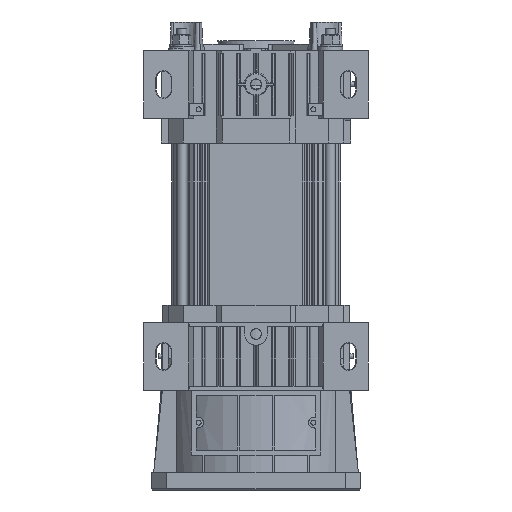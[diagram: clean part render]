
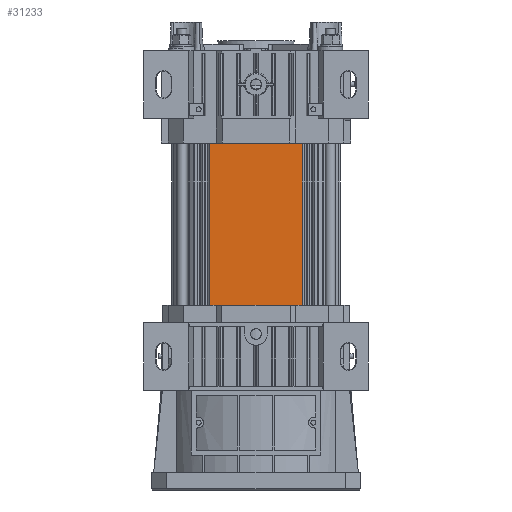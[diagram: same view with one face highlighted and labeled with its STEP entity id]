
A CAD part, front view. The second image highlights one B-rep face of the part: STEP entity #31233.
In plain terms, the highlighted planar face has unit normal (0, -1, 0).
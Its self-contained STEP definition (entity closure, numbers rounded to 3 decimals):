
#3447=LINE('',#53682,#6359);
#3683=LINE('',#54425,#6595);
#3684=LINE('',#54428,#6596);
#3685=LINE('',#54429,#6597);
#6359=VECTOR('',#42532,10.);
#6595=VECTOR('',#43286,10.);
#6596=VECTOR('',#43291,10.);
#6597=VECTOR('',#43292,10.);
#7602=PLANE('',#34350);
#9452=FACE_OUTER_BOUND('',#11311,.T.);
#11311=EDGE_LOOP('',(#28885,#28886,#28887,#28888));
#15379=VERTEX_POINT('',#53675);
#15382=VERTEX_POINT('',#53680);
#15629=VERTEX_POINT('',#54422);
#15630=VERTEX_POINT('',#54424);
#19770=EDGE_CURVE('',#15382,#15379,#3447,.T.);
#20141=EDGE_CURVE('',#15630,#15629,#3683,.T.);
#20143=EDGE_CURVE('',#15629,#15379,#3684,.T.);
#20144=EDGE_CURVE('',#15382,#15630,#3685,.T.);
#28885=ORIENTED_EDGE('',*,*,#20143,.T.);
#28886=ORIENTED_EDGE('',*,*,#19770,.F.);
#28887=ORIENTED_EDGE('',*,*,#20144,.T.);
#28888=ORIENTED_EDGE('',*,*,#20141,.T.);
#31233=ADVANCED_FACE('',(#9452),#7602,.T.);
#34350=AXIS2_PLACEMENT_3D('',#54427,#43289,#43290);
#42532=DIRECTION('',(0.,0.,1.));
#43286=DIRECTION('',(0.,0.,1.));
#43289=DIRECTION('center_axis',(0.,-1.,0.));
#43290=DIRECTION('ref_axis',(0.,0.,-1.));
#43291=DIRECTION('',(-1.,0.,0.));
#43292=DIRECTION('',(1.,0.,0.));
#53675=CARTESIAN_POINT('',(6506.45,-1976.3,140.));
#53680=CARTESIAN_POINT('',(6506.45,-1976.3,0.));
#53682=CARTESIAN_POINT('',(6506.45,-1976.3,0.));
#54422=CARTESIAN_POINT('',(6580.572,-1976.3,140.));
#54424=CARTESIAN_POINT('',(6580.572,-1976.3,0.));
#54425=CARTESIAN_POINT('',(6580.572,-1976.3,0.));
#54427=CARTESIAN_POINT('Origin',(6580.572,-1976.3,0.));
#54428=CARTESIAN_POINT('',(6506.45,-1976.3,140.));
#54429=CARTESIAN_POINT('',(6506.45,-1976.3,0.));
